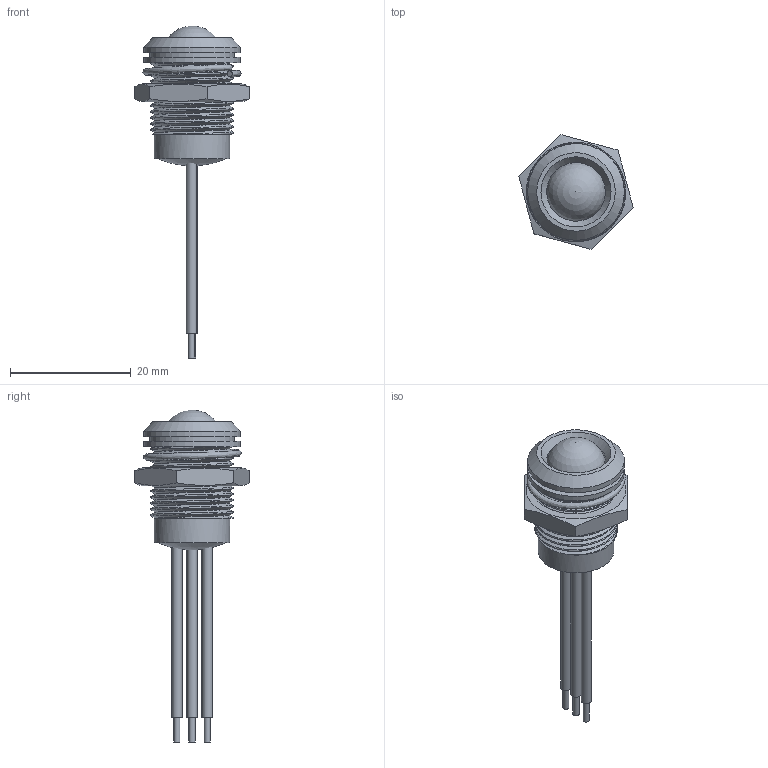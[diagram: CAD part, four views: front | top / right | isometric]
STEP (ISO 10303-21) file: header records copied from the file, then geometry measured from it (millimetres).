
FILE_DESCRIPTION( ( 'Unknown' ), '1' );
FILE_NAME( 'D:/My Documents/Q series 3D files/Q14P5BZZRYG.stp', 'Unknown', ( 'Unknown' ), ( 'Unknown' ), 'PSStep 15.0.49', 'Unknown', ' ' );
FILE_SCHEMA( ( 'AUTOMOTIVE_DESIGN { 1 0 10303 214 1 1 1 1 }' ) );
Length unit declared in the file: millimetre
Products named in the file (10): Assem1; 34-0086; 26-0049; 13-0037; 21-0027; 14mm epoxy-tri colour in line ; 10mm led cut-white; wire-red; wire-black; wire-green
Assembly tree (9 placements, depth 2):
  Assem1
    34-0086
    26-0049
    13-0037
    21-0027
    14mm epoxy-tri colour in line 
    10mm led cut-white
    wire-red
    wire-black
    wire-green
Bounding box: 18.93 x 18.99 x 54.95 mm (x, y, z)
Volume: 2963.1 mm3; surface area: 4414.6 mm2
Topology: 9 solids, 9 shells, 117 faces, 247 edges, 165 vertices
Faces by surface type: plane 63, cylinder 36, bspline 8, cone 6, sphere 2, torus 2
Full cylindrical faces by diameter (mm): 1 x6, 1.25 x3, 1.7 x3, 9.7 x1, 10 x1, 10.1 x1, 11 x1, 11.5 x2, 12.5 x12, 13.8 x1, 14 x1, 16 x2
Entity records: 14998 total; most frequent: CARTESIAN_POINT 12082, DIRECTION 400, ORIENTED_EDGE 314, AXIS2_PLACEMENT_3D 167, EDGE_LOOP 162, EDGE_CURVE 157, FACE_OUTER_BOUND 132, VERTEX_POINT 125
